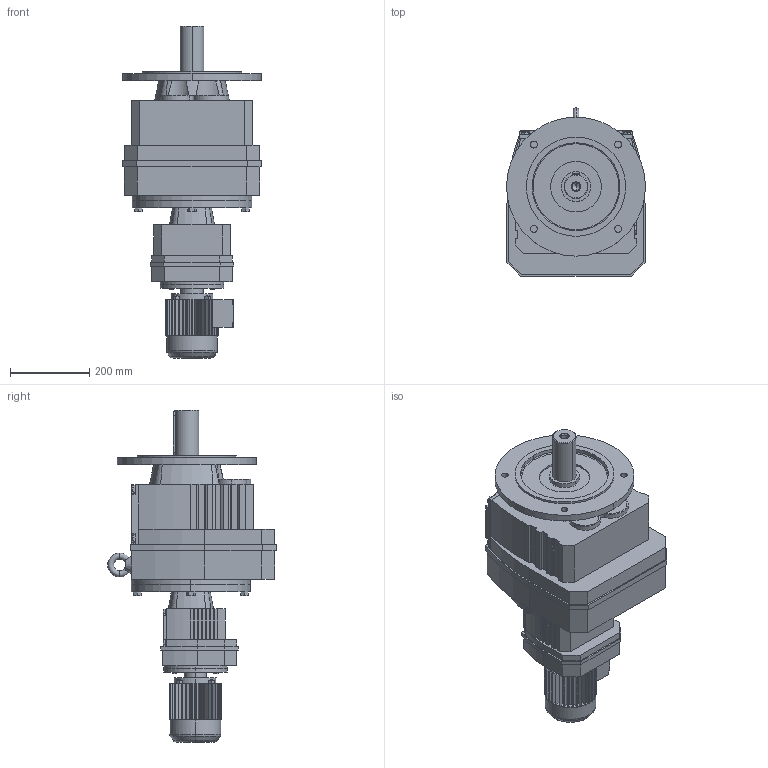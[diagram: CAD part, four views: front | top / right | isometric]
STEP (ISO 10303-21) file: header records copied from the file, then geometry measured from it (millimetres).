
FILE_DESCRIPTION(('Open CASCADE Model'),'2;1');
FILE_NAME('Open CASCADE Shape Model','2021-07-24T14:58:48',('Author'),( 'Open CASCADE'),'Open CASCADE STEP processor 6.3','Open CASCADE 6.3' ,'Unknown');
FILE_SCHEMA(('AUTOMOTIVE_DESIGN_CC2 { 1 2 10303 214 -1 1 5 4 }'));
Length unit declared in the file: millimetre
Products named in the file (4): 1_RF97R57DR63-350; RF37‵167_RF97R57_350.step; 萇儂_160-DR63-185-240-132-105.step; R_97_57.step
Assembly tree (3 placements, depth 2):
  1_RF97R57DR63-350
    RF37‵167_RF97R57_350.step
    萇儂_160-DR63-185-240-132-105.step
    R_97_57.step
Bounding box: 350 x 424 x 836 mm (x, y, z)
Volume: 37997941.3 mm3; surface area: 1375009.5 mm2
Topology: 3 solids, 3 shells, 965 faces, 2563 edges, 1668 vertices
Faces by surface type: plane 703, cylinder 222, cone 28, torus 12
Entity records: 67154 total; most frequent: CARTESIAN_POINT 17702, DIRECTION 8710, ORIENTED_EDGE 5122, PCURVE 5122, DEFINITIONAL_REPRESENTATION 5122, LINE 5120, VECTOR 5120, EDGE_CURVE 2561
